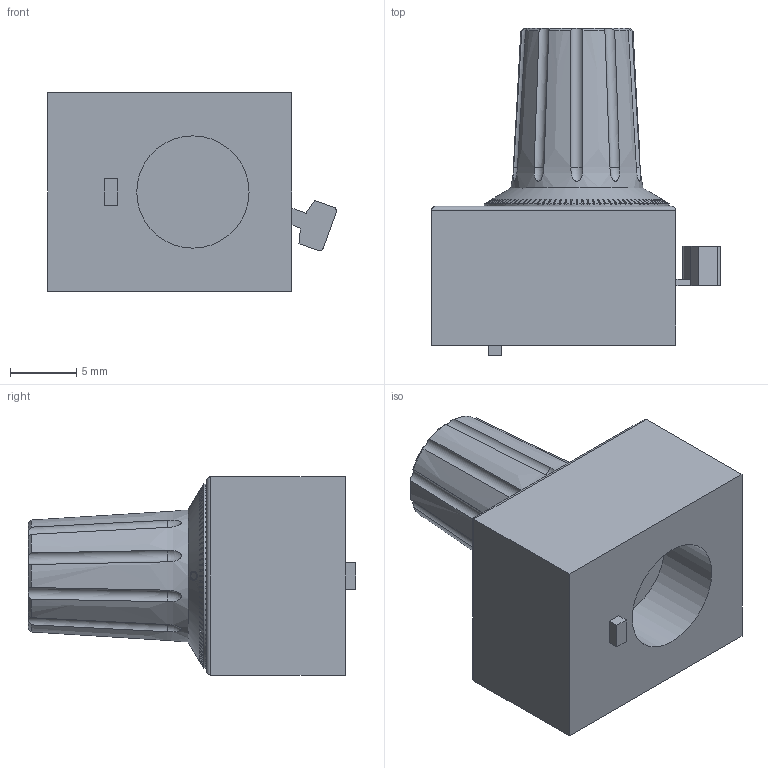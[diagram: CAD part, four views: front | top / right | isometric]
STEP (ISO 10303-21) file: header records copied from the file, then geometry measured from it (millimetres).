
FILE_DESCRIPTION (( 'STEP AP214' ), '1' );
FILE_NAME ('MF.STEP', '2019-05-09T13:38:27', ( '' ), ( '' ), 'SwSTEP 2.0', 'SolidWorks 2017', '' );
FILE_SCHEMA (( 'AUTOMOTIVE_DESIGN' ));
Length unit declared in the file: millimetre
Products named in the file (1): MF
Bounding box: 21.87 x 24.8 x 15 mm (x, y, z)
Volume: 3597.7 mm3; surface area: 1838.2 mm2
Topology: 1 solids, 1 shells, 694 faces, 1643 edges, 961 vertices
Faces by surface type: plane 543, cone 113, cylinder 19, torus 10, bspline 9
Full cylindrical faces by diameter (mm): 5 x1, 8.5 x1, 14 x1
Entity records: 22175 total; most frequent: CARTESIAN_POINT 5674, ORIENTED_EDGE 3270, DIRECTION 2763, EDGE_CURVE 1635, VERTEX_POINT 958, AXIS2_PLACEMENT_3D 926, VECTOR 911, LINE 911
